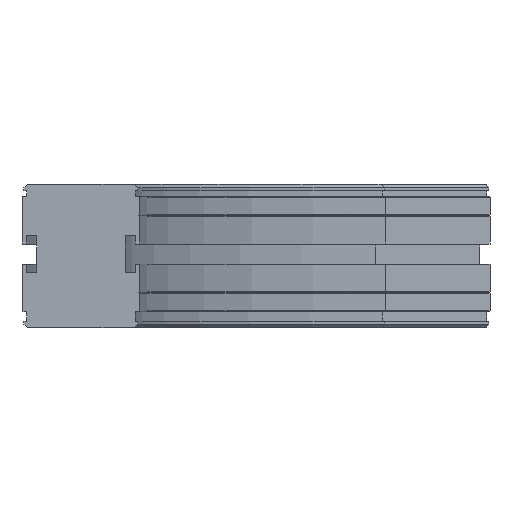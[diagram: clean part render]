
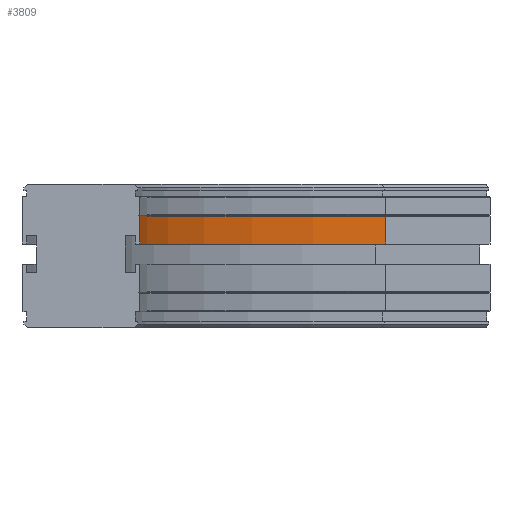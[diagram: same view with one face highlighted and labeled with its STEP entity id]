
A CAD part, left-side view. The second image highlights one B-rep face of the part: STEP entity #3809.
In plain terms, the highlighted cylindrical face has radius 457 mm (diameter 914 mm), a partial arc.
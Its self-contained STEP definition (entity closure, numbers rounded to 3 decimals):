
#2518=CARTESIAN_POINT('',(403.148,-165.852,-17.5));
#2519=VERTEX_POINT('',#2518);
#2526=CARTESIAN_POINT('',(403.148,-165.852,-32.5));
#2527=VERTEX_POINT('',#2526);
#2528=CARTESIAN_POINT('',(403.148,-165.852,-32.5));
#2529=DIRECTION('',(0.0,0.0,1.0));
#2530=VECTOR('',#2529,15.);
#2531=LINE('',#2528,#2530);
#2532=EDGE_CURVE('',#2527,#2519,#2531,.T.);
#3777=CARTESIAN_POINT('',(80.,-489.,-25.));
#3778=DIRECTION('',(0.0,0.0,-1.0));
#3779=DIRECTION('',(-0.707,-0.707,0.0));
#3780=AXIS2_PLACEMENT_3D('',#3777,#3778,#3779);
#3781=CYLINDRICAL_SURFACE('',#3780,457.);
#3782=ORIENTED_EDGE('',*,*,#2532,.T.);
#3783=CARTESIAN_POINT('',(80.0,-32.0,-17.5));
#3784=VERTEX_POINT('',#3783);
#3785=CARTESIAN_POINT('',(80.,-489.,-17.5));
#3786=DIRECTION('',(0.0,0.0,-1.));
#3787=DIRECTION('',(-0.707,-0.707,0.0));
#3788=AXIS2_PLACEMENT_3D('',#3785,#3786,#3787);
#3789=CIRCLE('',#3788,457.);
#3790=EDGE_CURVE('',#3784,#2519,#3789,.T.);
#3791=ORIENTED_EDGE('',*,*,#3790,.F.);
#3792=CARTESIAN_POINT('',(80.0,-32.0,-32.5));
#3793=VERTEX_POINT('',#3792);
#3794=CARTESIAN_POINT('',(80.0,-32.0,-32.5));
#3795=DIRECTION('',(0.0,0.0,1.0));
#3796=VECTOR('',#3795,15.);
#3797=LINE('',#3794,#3796);
#3798=EDGE_CURVE('',#3793,#3784,#3797,.T.);
#3799=ORIENTED_EDGE('',*,*,#3798,.F.);
#3800=CARTESIAN_POINT('',(80.,-489.,-32.5));
#3801=DIRECTION('',(0.0,0.0,-1.));
#3802=DIRECTION('',(-0.707,-0.707,0.0));
#3803=AXIS2_PLACEMENT_3D('',#3800,#3801,#3802);
#3804=CIRCLE('',#3803,457.);
#3805=EDGE_CURVE('',#3793,#2527,#3804,.T.);
#3806=ORIENTED_EDGE('',*,*,#3805,.T.);
#3807=EDGE_LOOP('',(#3782,#3791,#3799,#3806));
#3808=FACE_OUTER_BOUND('',#3807,.T.);
#3809=ADVANCED_FACE('',(#3808),#3781,.F.);
